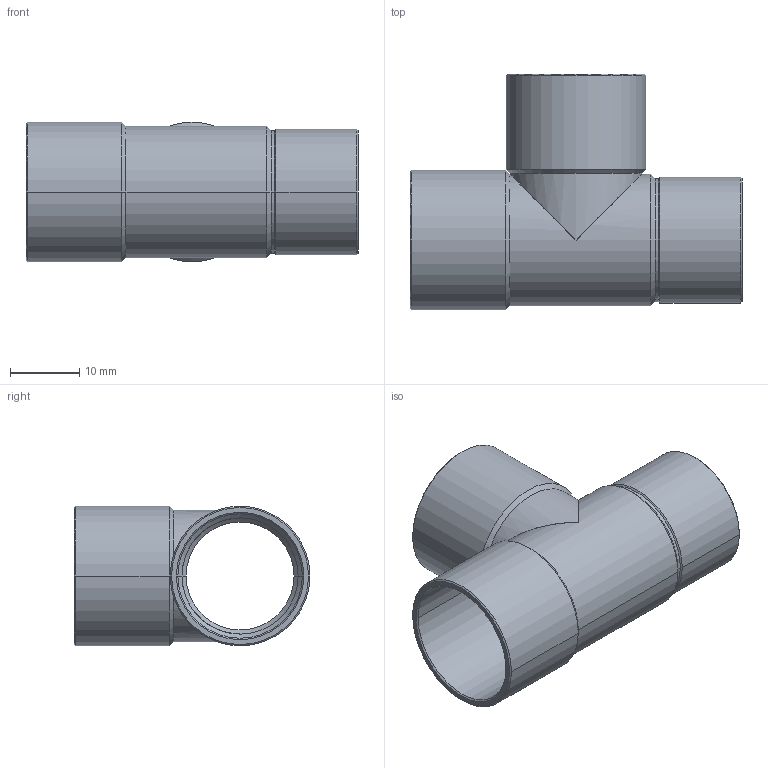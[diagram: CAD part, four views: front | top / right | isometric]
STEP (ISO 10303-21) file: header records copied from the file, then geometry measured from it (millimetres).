
FILE_DESCRIPTION((''),'2;1');
FILE_NAME('P:\Bouwmaten\z-maattekeningen 3D\5000\5130\5130181816.stp','2005-10-26T11:53:30',('Kris'),(''),'Autodesk Inventor 8','Autodesk Inventor 8','');
FILE_SCHEMA(('AUTOMOTIVE_DESIGN { 1 0 10303 214 1 1 1 1 }'));
Length unit declared in the file: millimetre
Products named in the file (1): 5130181816
Bounding box: 48 x 34.1 x 20.2 mm (x, y, z)
Volume: 3819.8 mm3; surface area: 7191.8 mm2
Topology: 1 solids, 1 shells, 59 faces, 133 edges, 67 vertices
Faces by surface type: cone 28, cylinder 24, bspline 4, plane 3
Entity records: 1974 total; most frequent: CARTESIAN_POINT 648, DIRECTION 309, ORIENTED_EDGE 250, AXIS2_PLACEMENT_3D 128, EDGE_CURVE 125, VERTEX_POINT 67, EDGE_LOOP 62, FACE_OUTER_BOUND 59
